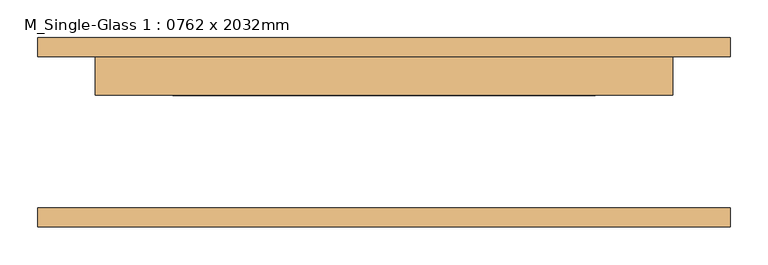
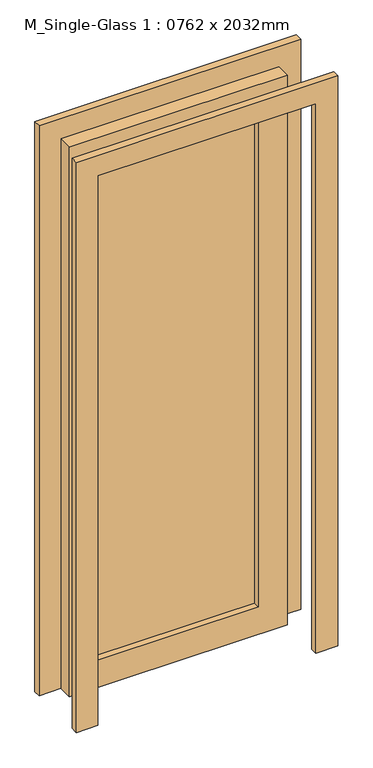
"""IFC4 building model written with IfcOpenShell, lengths in millimetres: door geometry, M_Single-Glass 1 : 0762 x 2032mm."""

from ifc_helpers import new_model, si_unit, frame, origin, place, context, project, spatial, polyline, outline, extrude, source, transform, mapped, element, save


def m_single_glass_1_0762_x_2032mm_61072caa(model_context):
    return source(origin(), model_context, "Body", "SweptSolid", [
        extrude(outline(polyline([(2032.0, 381.0), (0.0, 381.0), (0.0, 457.0), (2108.0, 457.0), (2108.0, -457.0), (0.0, -457.0), (0.0, -381.0), (2032.0, -381.0), (2032.0, 381.0)])), frame((0.0, -125.0, 0.0), z_axis=(0.0, 1.0, 0.0), x_axis=(0.0, 0.0, 1.0)), (0.0, 0.0, 1.0), 25.0),
        extrude(outline(polyline([(2032.0, 381.0), (0.0, 381.0), (0.0, 457.0), (2108.0, 457.0), (2108.0, -457.0), (0.0, -457.0), (0.0, -381.0), (2032.0, -381.0), (2032.0, 381.0)])), frame((0.0, 100.0, 0.0), z_axis=(0.0, 1.0, 0.0), x_axis=(0.0, 0.0, 1.0)), (0.0, 0.0, 1.0), 25.0),
        extrude(outline(polyline([(279.0, 71.425), (-279.0, 71.425), (-279.0, 77.775), (279.0, 77.775), (279.0, 71.425)])), frame((0.0, 0.0, 102.0), z_axis=(0.0, 0.0, 1.0), x_axis=(1.0, 0.0, 0.0)), (0.0, 0.0, 1.0), 1828.0),
        extrude(outline(polyline([(2032.0, 381.0), (2032.0, -381.0), (0.0, -381.0), (0.0, 381.0), (2032.0, 381.0)]), holes=[polyline([(1930.0, -279.0), (1930.0, 279.0), (102.0, 279.0), (102.0, -279.0), (1930.0, -279.0)])]), frame((0.0, 49.0, 0.0), z_axis=(0.0, 1.0, 0.0), x_axis=(0.0, 0.0, 1.0)), (0.0, 0.0, 1.0), 51.0),
    ])


if __name__ == "__main__":
    model = new_model("IFC4")
    model_context = context("Model", 3, world=origin())
    ifc_project = project(units=[si_unit("LENGTHUNIT", "METRE", prefix="MILLI")], contexts=[model_context])
    site = spatial("IfcSite", under=ifc_project)
    building = spatial("IfcBuilding", under=site)
    placement = place(None, origin())
    m_single_glass_1_0762_x_2032mm_shape = m_single_glass_1_0762_x_2032mm_61072caa(model_context)
    element("IfcDoor", 1, ObjectType="M_Single-Glass 1 : 0762 x 2032mm", at=placement, inside=building, context=model_context, shape_type="MappedRepresentation", body=[
        mapped(m_single_glass_1_0762_x_2032mm_shape, transform((0.0, 0.0, 0.0), x_axis=(1.0, 0.0, 0.0), y_axis=(0.0, 1.0, 0.0), z_axis=(0.0, 0.0, 1.0))),
    ])
    save(model, "model.ifc")
